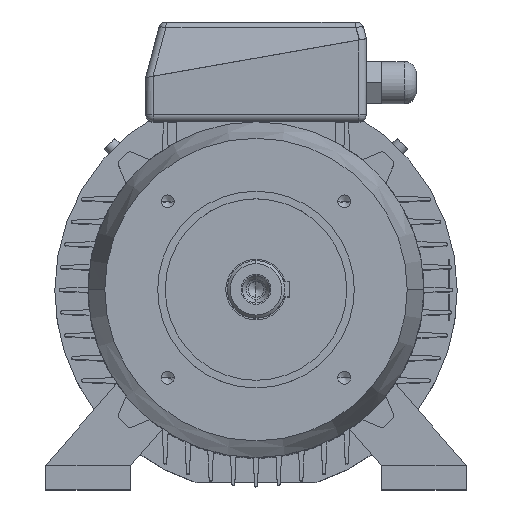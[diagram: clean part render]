
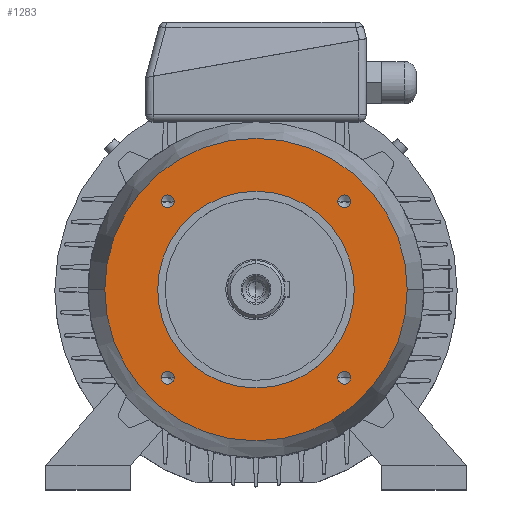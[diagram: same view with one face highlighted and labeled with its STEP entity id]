
A CAD part, top view. The second image highlights one B-rep face of the part: STEP entity #1283.
In plain terms, the highlighted planar face has unit normal (0, 0, 1).
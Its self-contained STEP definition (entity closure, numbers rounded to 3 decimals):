
#16450 = VERTEX_POINT ( 'NONE', #6883 ) ;
#97 = EDGE_CURVE ( 'NONE', #8674, #10004, #11181, .T. ) ;
#16500 = ORIENTED_EDGE ( 'NONE', *, *, #8723, .F. ) ;
#16522 = EDGE_CURVE ( 'NONE', #17578, #16257, #6923, .T. ) ;
#256 = CIRCLE ( 'NONE', #257, 4.25 ) ;
#257 = AXIS2_PLACEMENT_3D ( 'NONE', #258, #259, #260 ) ;
#258 = CARTESIAN_POINT ( 'NONE',  ( 58.336, -58.336, 58. ) ) ;
#259 = DIRECTION ( 'NONE',  ( 0., 0., 1. ) ) ;
#260 = DIRECTION ( 'NONE',  ( 1., 0., 0. ) ) ;
#531 = ORIENTED_EDGE ( 'NONE', *, *, #97, .F. ) ;
#16953 = CIRCLE ( 'NONE', #16954, 65. ) ;
#16954 = AXIS2_PLACEMENT_3D ( 'NONE', #16955, #16956, #16957 ) ;
#16955 = CARTESIAN_POINT ( 'NONE',  ( 0., 0., 58. ) ) ;
#16956 = DIRECTION ( 'NONE',  ( 0., 0., 1. ) ) ;
#16957 = DIRECTION ( 'NONE',  ( 1., 0., 0. ) ) ;
#843 = CARTESIAN_POINT ( 'NONE',  ( 54.086, -58.336, 58. ) ) ;
#17313 = EDGE_LOOP ( 'NONE', ( #16500, #7020 ) ) ;
#1044 = CARTESIAN_POINT ( 'NONE',  ( -54.086, -58.336, 58. ) ) ;
#17578 = VERTEX_POINT ( 'NONE', #7632 ) ;
#1204 = CIRCLE ( 'NONE', #1205, 4.25 ) ;
#1205 = AXIS2_PLACEMENT_3D ( 'NONE', #1206, #1207, #1208 ) ;
#1206 = CARTESIAN_POINT ( 'NONE',  ( -58.336, -58.336, 58. ) ) ;
#1207 = DIRECTION ( 'NONE',  ( 0., 0., 1. ) ) ;
#1208 = DIRECTION ( 'NONE',  ( 1., 0., 0. ) ) ;
#17601 = ORIENTED_EDGE ( 'NONE', *, *, #2479, .T. ) ;
#1283 = ADVANCED_FACE ( 'NONE', ( #12136, #12137, #12138, #12139, #12140, #12141 ), #12142, .F. ) ;
#1593 = EDGE_CURVE ( 'NONE', #16257, #17578, #12444, .T. ) ;
#1778 = ORIENTED_EDGE ( 'NONE', *, *, #1593, .F. ) ;
#18221 = EDGE_CURVE ( 'NONE', #1936, #2209, #8552, .T. ) ;
#18226 = CARTESIAN_POINT ( 'NONE',  ( -65., 0., 58. ) ) ;
#1936 = VERTEX_POINT ( 'NONE', #12646 ) ;
#18539 = CARTESIAN_POINT ( 'NONE',  ( 65., 0., 58. ) ) ;
#2209 = VERTEX_POINT ( 'NONE', #12831 ) ;
#18655 = CARTESIAN_POINT ( 'NONE',  ( 62.586, 58.336, 58. ) ) ;
#18662 = ORIENTED_EDGE ( 'NONE', *, *, #18221, .T. ) ;
#18674 = CIRCLE ( 'NONE', #18675, 65. ) ;
#18675 = AXIS2_PLACEMENT_3D ( 'NONE', #18676, #18677, #18678 ) ;
#18676 = CARTESIAN_POINT ( 'NONE',  ( 0., 0., 58. ) ) ;
#18677 = DIRECTION ( 'NONE',  ( 0., 0., 1. ) ) ;
#18678 = DIRECTION ( 'NONE',  ( 1., 0., 0. ) ) ;
#2416 = EDGE_LOOP ( 'NONE', ( #1778, #10514 ) ) ;
#18819 = CIRCLE ( 'NONE', #18820, 4.25 ) ;
#18820 = AXIS2_PLACEMENT_3D ( 'NONE', #18821, #18822, #18823 ) ;
#18821 = CARTESIAN_POINT ( 'NONE',  ( 58.336, 58.336, 58. ) ) ;
#18822 = DIRECTION ( 'NONE',  ( 0., 0., 1. ) ) ;
#18823 = DIRECTION ( 'NONE',  ( 1., 0., 0. ) ) ;
#2479 = EDGE_CURVE ( 'NONE', #2209, #1936, #13032, .T. ) ;
#2701 = ORIENTED_EDGE ( 'NONE', *, *, #10212, .F. ) ;
#19277 = EDGE_LOOP ( 'NONE', ( #18662, #17601 ) ) ;
#19568 = ORIENTED_EDGE ( 'NONE', *, *, #8942, .F. ) ;
#3314 = EDGE_CURVE ( 'NONE', #10112, #10493, #13680, .T. ) ;
#19815 = CARTESIAN_POINT ( 'NONE',  ( 54.086, 58.336, 58. ) ) ;
#19881 = CARTESIAN_POINT ( 'NONE',  ( 62.586, -58.336, 58. ) ) ;
#3745 = ORIENTED_EDGE ( 'NONE', *, *, #3314, .F. ) ;
#4366 = EDGE_LOOP ( 'NONE', ( #3745, #2701 ) ) ;
#4653 = ORIENTED_EDGE ( 'NONE', *, *, #10610, .F. ) ;
#5267 = EDGE_CURVE ( 'NONE', #10542, #16450, #15197, .T. ) ;
#5713 = ORIENTED_EDGE ( 'NONE', *, *, #5267, .F. ) ;
#6341 = EDGE_LOOP ( 'NONE', ( #5713, #4653 ) ) ;
#6629 = EDGE_CURVE ( 'NONE', #8203, #8464, #16953, .T. ) ;
#6810 = CARTESIAN_POINT ( 'NONE',  ( -54.086, 58.336, 58. ) ) ;
#6883 = CARTESIAN_POINT ( 'NONE',  ( -62.586, -58.336, 58. ) ) ;
#6923 = CIRCLE ( 'NONE', #6924, 4.25 ) ;
#6924 = AXIS2_PLACEMENT_3D ( 'NONE', #6929, #6930, #6931 ) ;
#6929 = CARTESIAN_POINT ( 'NONE',  ( -58.336, 58.336, 58. ) ) ;
#6930 = DIRECTION ( 'NONE',  ( 0., 0., 1. ) ) ;
#6931 = DIRECTION ( 'NONE',  ( 1., 0., 0. ) ) ;
#7020 = ORIENTED_EDGE ( 'NONE', *, *, #6629, .F. ) ;
#7632 = CARTESIAN_POINT ( 'NONE',  ( -62.586, 58.336, 58. ) ) ;
#8203 = VERTEX_POINT ( 'NONE', #18226 ) ;
#8464 = VERTEX_POINT ( 'NONE', #18539 ) ;
#8552 = CIRCLE ( 'NONE', #8553, 100. ) ;
#8553 = AXIS2_PLACEMENT_3D ( 'NONE', #8554, #8555, #8556 ) ;
#8554 = CARTESIAN_POINT ( 'NONE',  ( 0., 0., 58. ) ) ;
#8555 = DIRECTION ( 'NONE',  ( 0., 0., 1. ) ) ;
#8556 = DIRECTION ( 'NONE',  ( 1., 0., 0. ) ) ;
#8674 = VERTEX_POINT ( 'NONE', #18655 ) ;
#8723 = EDGE_CURVE ( 'NONE', #8464, #8203, #18674, .T. ) ;
#8942 = EDGE_CURVE ( 'NONE', #10004, #8674, #18819, .T. ) ;
#10004 = VERTEX_POINT ( 'NONE', #19815 ) ;
#10112 = VERTEX_POINT ( 'NONE', #19881 ) ;
#10212 = EDGE_CURVE ( 'NONE', #10493, #10112, #256, .T. ) ;
#10493 = VERTEX_POINT ( 'NONE', #843 ) ;
#10514 = ORIENTED_EDGE ( 'NONE', *, *, #16522, .F. ) ;
#10542 = VERTEX_POINT ( 'NONE', #1044 ) ;
#10610 = EDGE_CURVE ( 'NONE', #16450, #10542, #1204, .T. ) ;
#10750 = EDGE_LOOP ( 'NONE', ( #531, #19568 ) ) ;
#11181 = CIRCLE ( 'NONE', #11182, 4.25 ) ;
#11182 = AXIS2_PLACEMENT_3D ( 'NONE', #11183, #11184, #11185 ) ;
#11183 = CARTESIAN_POINT ( 'NONE',  ( 58.336, 58.336, 58. ) ) ;
#11184 = DIRECTION ( 'NONE',  ( 0., 0., 1. ) ) ;
#11185 = DIRECTION ( 'NONE',  ( 1., 0., 0. ) ) ;
#12136 = FACE_BOUND ( 'NONE', #10750, .T. ) ;
#12137 = FACE_OUTER_BOUND ( 'NONE', #19277, .T. ) ;
#12138 = FACE_BOUND ( 'NONE', #17313, .T. ) ;
#12139 = FACE_BOUND ( 'NONE', #6341, .T. ) ;
#12140 = FACE_BOUND ( 'NONE', #4366, .T. ) ;
#12141 = FACE_BOUND ( 'NONE', #2416, .T. ) ;
#12142 = PLANE ( 'NONE',  #12143 ) ;
#12143 = AXIS2_PLACEMENT_3D ( 'NONE', #12144, #12145, #12146 ) ;
#12144 = CARTESIAN_POINT ( 'NONE',  ( 0., 100., 58. ) ) ;
#12145 = DIRECTION ( 'NONE',  ( 0., 0., -1. ) ) ;
#12146 = DIRECTION ( 'NONE',  ( -1., 0., 0. ) ) ;
#12444 = CIRCLE ( 'NONE', #12445, 4.25 ) ;
#12445 = AXIS2_PLACEMENT_3D ( 'NONE', #12446, #12447, #12448 ) ;
#12446 = CARTESIAN_POINT ( 'NONE',  ( -58.336, 58.336, 58. ) ) ;
#12447 = DIRECTION ( 'NONE',  ( 0., 0., 1. ) ) ;
#12448 = DIRECTION ( 'NONE',  ( 1., 0., 0. ) ) ;
#12646 = CARTESIAN_POINT ( 'NONE',  ( -100., 0., 58. ) ) ;
#12831 = CARTESIAN_POINT ( 'NONE',  ( 100., 0., 58. ) ) ;
#13032 = CIRCLE ( 'NONE', #13039, 100. ) ;
#13039 = AXIS2_PLACEMENT_3D ( 'NONE', #13040, #13041, #13042 ) ;
#13040 = CARTESIAN_POINT ( 'NONE',  ( 0., 0., 58. ) ) ;
#13041 = DIRECTION ( 'NONE',  ( 0., 0., 1. ) ) ;
#13042 = DIRECTION ( 'NONE',  ( 1., 0., 0. ) ) ;
#13680 = CIRCLE ( 'NONE', #13681, 4.25 ) ;
#13681 = AXIS2_PLACEMENT_3D ( 'NONE', #13682, #13683, #13684 ) ;
#13682 = CARTESIAN_POINT ( 'NONE',  ( 58.336, -58.336, 58. ) ) ;
#13683 = DIRECTION ( 'NONE',  ( 0., 0., 1. ) ) ;
#13684 = DIRECTION ( 'NONE',  ( 1., 0., 0. ) ) ;
#15197 = CIRCLE ( 'NONE', #15198, 4.25 ) ;
#15198 = AXIS2_PLACEMENT_3D ( 'NONE', #15199, #15200, #15209 ) ;
#15199 = CARTESIAN_POINT ( 'NONE',  ( -58.336, -58.336, 58. ) ) ;
#15200 = DIRECTION ( 'NONE',  ( 0., 0., 1. ) ) ;
#15209 = DIRECTION ( 'NONE',  ( 1., 0., 0. ) ) ;
#16257 = VERTEX_POINT ( 'NONE', #6810 ) ;
